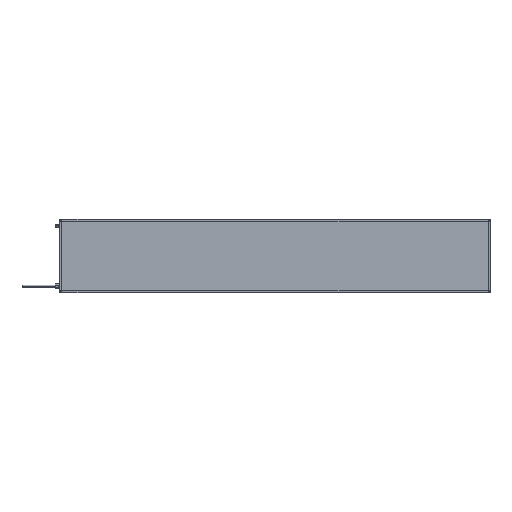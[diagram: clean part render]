
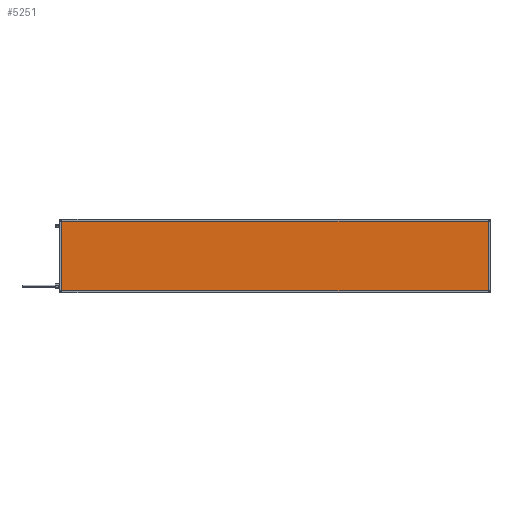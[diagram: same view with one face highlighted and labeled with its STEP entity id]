
A CAD part, top view. The second image highlights one B-rep face of the part: STEP entity #5251.
In plain terms, the highlighted planar face has unit normal (0, 0, 1).
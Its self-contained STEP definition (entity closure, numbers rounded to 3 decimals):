
#455 = ORIENTED_EDGE ( 'NONE', *, *, #9905, .T. ) ;
#493 = FACE_OUTER_BOUND ( 'NONE', #1949, .T. ) ;
#694 = EDGE_CURVE ( 'NONE', #9051, #17966, #4009, .T. ) ;
#753 = CARTESIAN_POINT ( 'NONE',  ( 0., 0., 41.85 ) ) ;
#1017 = DIRECTION ( 'NONE',  ( 0., 1., 0. ) ) ;
#1949 = EDGE_LOOP ( 'NONE', ( #12805, #8560, #455, #6184 ) ) ;
#2354 = DIRECTION ( 'NONE',  ( -1., 0., 0. ) ) ;
#3836 = CARTESIAN_POINT ( 'NONE',  ( 1796., 296., 41.85 ) ) ;
#4009 = LINE ( 'NONE', #9664, #4831 ) ;
#4831 = VECTOR ( 'NONE', #1017, 1000. ) ;
#5251 = ADVANCED_FACE ( 'NONE', ( #493 ), #6047, .F. ) ;
#5732 = CARTESIAN_POINT ( 'NONE',  ( 0., 4., 41.85 ) ) ;
#5812 = AXIS2_PLACEMENT_3D ( 'NONE', #753, #8956, #9046 ) ;
#5914 = LINE ( 'NONE', #5732, #6212 ) ;
#6047 = PLANE ( 'NONE',  #5812 ) ;
#6184 = ORIENTED_EDGE ( 'NONE', *, *, #11760, .T. ) ;
#6212 = VECTOR ( 'NONE', #16975, 1000. ) ;
#6297 = VERTEX_POINT ( 'NONE', #8846 ) ;
#6457 = LINE ( 'NONE', #6548, #8002 ) ;
#6548 = CARTESIAN_POINT ( 'NONE',  ( 0., 296., 41.85 ) ) ;
#6852 = CARTESIAN_POINT ( 'NONE',  ( 4., 296., 41.85 ) ) ;
#8002 = VECTOR ( 'NONE', #2354, 1000. ) ;
#8560 = ORIENTED_EDGE ( 'NONE', *, *, #16231, .T. ) ;
#8846 = CARTESIAN_POINT ( 'NONE',  ( 4., 4., 41.85 ) ) ;
#8956 = DIRECTION ( 'NONE',  ( 0., 0., -1. ) ) ;
#9046 = DIRECTION ( 'NONE',  ( -1., 0., 0. ) ) ;
#9051 = VERTEX_POINT ( 'NONE', #15560 ) ;
#9664 = CARTESIAN_POINT ( 'NONE',  ( 1796., 0., 41.85 ) ) ;
#9905 = EDGE_CURVE ( 'NONE', #13265, #6297, #11142, .T. ) ;
#10786 = CARTESIAN_POINT ( 'NONE',  ( 4., 0., 41.85 ) ) ;
#11142 = LINE ( 'NONE', #10786, #11412 ) ;
#11412 = VECTOR ( 'NONE', #16735, 1000. ) ;
#11760 = EDGE_CURVE ( 'NONE', #6297, #9051, #5914, .T. ) ;
#12805 = ORIENTED_EDGE ( 'NONE', *, *, #694, .T. ) ;
#13265 = VERTEX_POINT ( 'NONE', #6852 ) ;
#15560 = CARTESIAN_POINT ( 'NONE',  ( 1796., 4., 41.85 ) ) ;
#16231 = EDGE_CURVE ( 'NONE', #17966, #13265, #6457, .T. ) ;
#16735 = DIRECTION ( 'NONE',  ( 0., -1., 0. ) ) ;
#16975 = DIRECTION ( 'NONE',  ( 1., 0., 0. ) ) ;
#17966 = VERTEX_POINT ( 'NONE', #3836 ) ;
